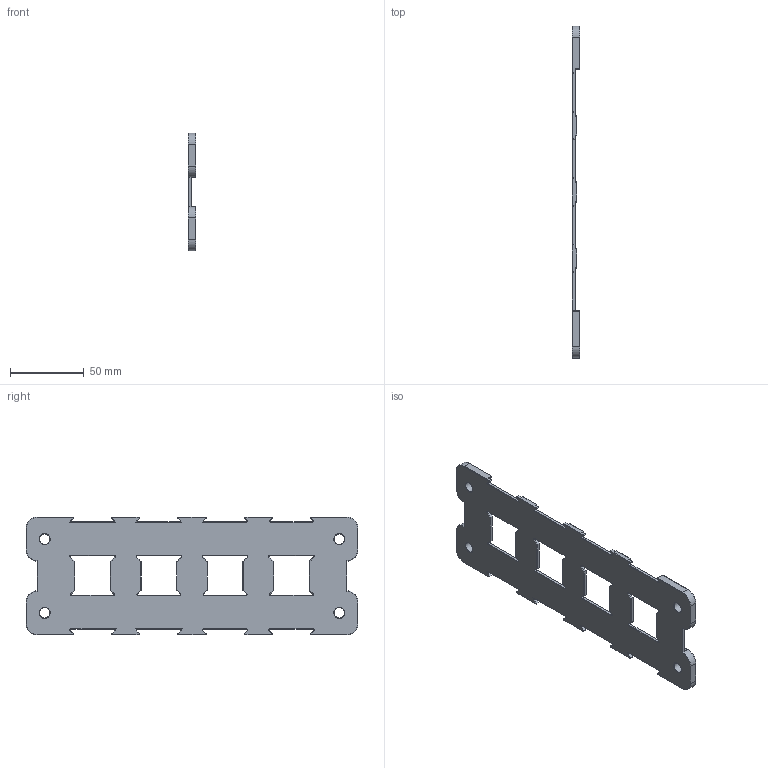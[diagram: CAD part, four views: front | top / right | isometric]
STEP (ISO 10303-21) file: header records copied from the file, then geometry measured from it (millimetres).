
FILE_DESCRIPTION(/* description */ (''),/* implementation_level */ '2;1');
FILE_NAME(/* name */ 'TOKEN GRID v3.step',/* time_stamp */ '2025-10-24T10:35:35-05:00',/* author */ (''),/* organization */ (''),/* preprocessor_version */ 'ST-DEVELOPER v20.1',/* originating_system */ 'Autodesk Translation Framework v14.17.0.0',/* authorisation */ '');
FILE_SCHEMA (('AUTOMOTIVE_DESIGN { 1 0 10303 214 3 1 1 }'));
Length unit declared in the file: inch
Products named in the file (1): TOKEN GRID
Bounding box: 5.35 x 225.17 x 80 mm (x, y, z)
Volume: 39477.2 mm3; surface area: 32751.8 mm2
Topology: 1 solids, 1 shells, 425 faces, 1046 edges, 622 vertices
Faces by surface type: cone 158, cylinder 140, plane 127
Full cylindrical faces by diameter (mm): 7.01 x4
Entity records: 12504 total; most frequent: DIRECTION 2328, CARTESIAN_POINT 2136, ORIENTED_EDGE 2092, EDGE_CURVE 1046, AXIS2_PLACEMENT_3D 870, VERTEX_POINT 622, LINE 588, VECTOR 588
